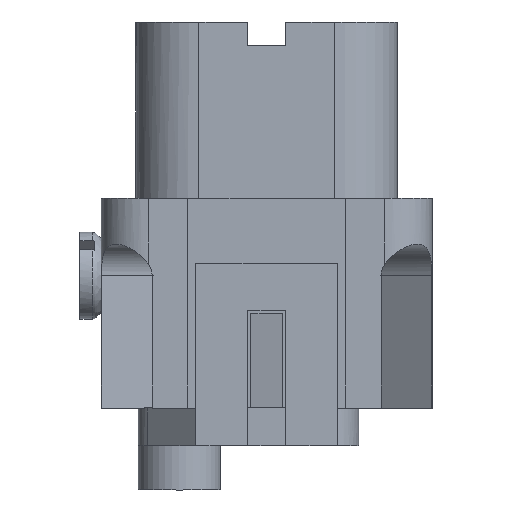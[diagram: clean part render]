
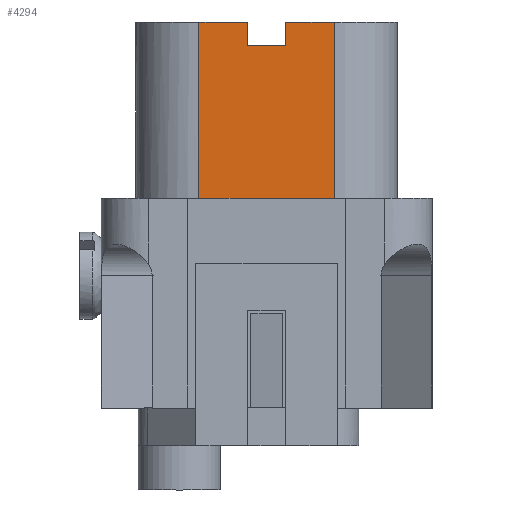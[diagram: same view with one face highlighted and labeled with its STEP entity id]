
A CAD part, front view. The second image highlights one B-rep face of the part: STEP entity #4294.
In plain terms, the highlighted planar face has unit normal (0, -1, 0).
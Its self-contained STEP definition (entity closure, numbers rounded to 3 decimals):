
#4294=ADVANCED_FACE('',(#4994),#4664,.T.);
#4664=PLANE('',#12328);
#4994=FACE_OUTER_BOUND('',#5456,.T.);
#5456=EDGE_LOOP('',(#7349,#7350,#7351,#7352,#7353,#7354,#7355,#7356));
#7349=ORIENTED_EDGE('',*,*,#9729,.T.);
#7350=ORIENTED_EDGE('',*,*,#9974,.F.);
#7351=ORIENTED_EDGE('',*,*,#9975,.F.);
#7352=ORIENTED_EDGE('',*,*,#9833,.T.);
#7353=ORIENTED_EDGE('',*,*,#9752,.T.);
#7354=ORIENTED_EDGE('',*,*,#9976,.T.);
#7355=ORIENTED_EDGE('',*,*,#9969,.T.);
#7356=ORIENTED_EDGE('',*,*,#9977,.T.);
#8709=VERTEX_POINT('',#16338);
#8711=VERTEX_POINT('',#16341);
#8733=VERTEX_POINT('',#16388);
#8734=VERTEX_POINT('',#16389);
#8808=VERTEX_POINT('',#16686);
#8892=VERTEX_POINT('',#17142);
#8893=VERTEX_POINT('',#17144);
#8895=VERTEX_POINT('',#17151);
#9729=EDGE_CURVE('',#8711,#8709,#10752,.T.);
#9752=EDGE_CURVE('',#8733,#8734,#10769,.T.);
#9833=EDGE_CURVE('',#8808,#8733,#10799,.T.);
#9969=EDGE_CURVE('',#8893,#8892,#10904,.T.);
#9974=EDGE_CURVE('',#8895,#8709,#10908,.T.);
#9975=EDGE_CURVE('',#8808,#8895,#10909,.T.);
#9976=EDGE_CURVE('',#8734,#8893,#10910,.T.);
#9977=EDGE_CURVE('',#8892,#8711,#10911,.T.);
#10752=LINE('',#16340,#11590);
#10769=LINE('',#16387,#11607);
#10799=LINE('',#16685,#11637);
#10904=LINE('',#17143,#11742);
#10908=LINE('',#17152,#11746);
#10909=LINE('',#17154,#11747);
#10910=LINE('',#17155,#11748);
#10911=LINE('',#17156,#11749);
#11590=VECTOR('',#13453,1.);
#11607=VECTOR('',#13486,1.);
#11637=VECTOR('',#13542,1.);
#11742=VECTOR('',#13803,1.);
#11746=VECTOR('',#13811,1.);
#11747=VECTOR('',#13814,1.);
#11748=VECTOR('',#13815,1.);
#11749=VECTOR('',#13816,1.);
#12328=AXIS2_PLACEMENT_3D('',#17157,#13817,#13818);
#13453=DIRECTION('',(-1.,0.,0.));
#13486=DIRECTION('',(-1.,0.,0.));
#13542=DIRECTION('',(0.,0.,1.));
#13803=DIRECTION('',(-1.,0.,0.));
#13811=DIRECTION('',(0.,0.,1.));
#13814=DIRECTION('',(-1.,0.,0.));
#13815=DIRECTION('',(0.,0.,-1.));
#13816=DIRECTION('',(0.,0.,1.));
#13817=DIRECTION('',(0.,-1.,0.));
#13818=DIRECTION('',(-1.,0.,0.));
#16338=CARTESIAN_POINT('',(-4.3,-8.3,16.1));
#16340=CARTESIAN_POINT('',(-4.3,-8.3,16.1));
#16341=CARTESIAN_POINT('',(-1.2,-8.3,16.1));
#16387=CARTESIAN_POINT('',(-4.3,-8.3,16.1));
#16388=CARTESIAN_POINT('',(4.3,-8.3,16.1));
#16389=CARTESIAN_POINT('',(1.2,-8.3,16.1));
#16685=CARTESIAN_POINT('',(4.3,-8.3,4.9));
#16686=CARTESIAN_POINT('',(4.3,-8.3,4.9));
#17142=CARTESIAN_POINT('',(-1.2,-8.3,14.6));
#17143=CARTESIAN_POINT('',(1.2,-8.3,14.6));
#17144=CARTESIAN_POINT('',(1.2,-8.3,14.6));
#17151=CARTESIAN_POINT('',(-4.3,-8.3,4.9));
#17152=CARTESIAN_POINT('',(-4.3,-8.3,4.9));
#17154=CARTESIAN_POINT('',(4.3,-8.3,4.9));
#17155=CARTESIAN_POINT('',(1.2,-8.3,15.6));
#17156=CARTESIAN_POINT('',(-1.2,-8.3,14.6));
#17157=CARTESIAN_POINT('',(-4.3,-8.3,4.9));
